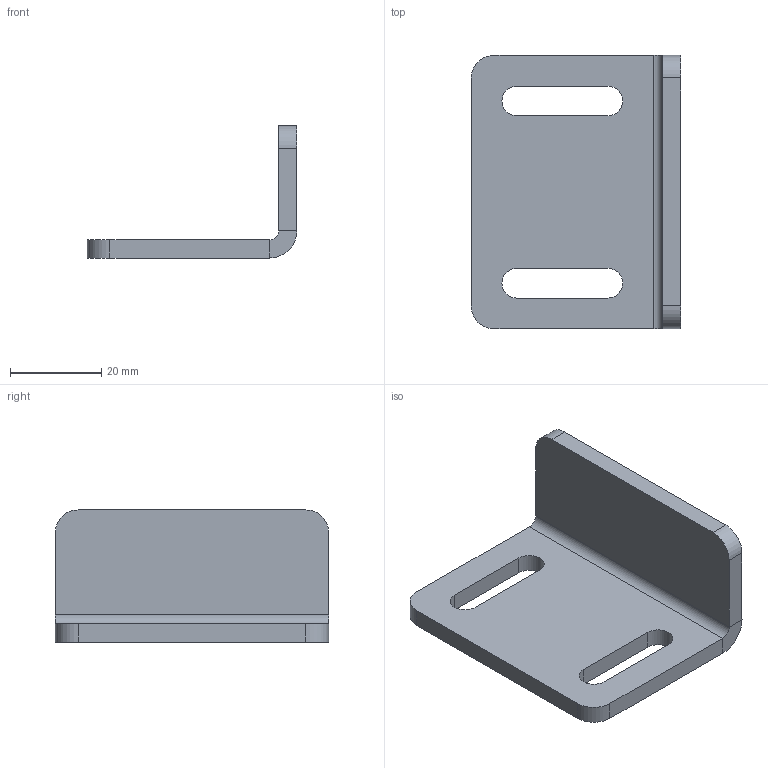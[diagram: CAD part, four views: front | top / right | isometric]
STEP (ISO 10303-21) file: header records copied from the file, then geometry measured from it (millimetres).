
FILE_DESCRIPTION (( 'STEP AP203' ), '1' );
FILE_NAME ('ORW-70.24.002 赶鎀鍧.STEP', '2025-10-13T13:18:11', ( '燴僽樥' ), ( '' ), 'SwSTEP 2.0', 'SolidWorks 2025', '' );
FILE_SCHEMA (( 'CONFIG_CONTROL_DESIGN' ));
Length unit declared in the file: millimetre
Products named in the file (1): ORW-70.24.002 Уголок
Bounding box: 46 x 60 x 29 mm (x, y, z)
Volume: 15236.7 mm3; surface area: 9101.6 mm2
Topology: 1 solids, 1 shells, 26 faces, 64 edges, 40 vertices
Faces by surface type: plane 16, cylinder 10
Entity records: 847 total; most frequent: DIRECTION 138, CARTESIAN_POINT 131, ORIENTED_EDGE 128, EDGE_CURVE 64, AXIS2_PLACEMENT_3D 47, LINE 44, VECTOR 44, VERTEX_POINT 40
